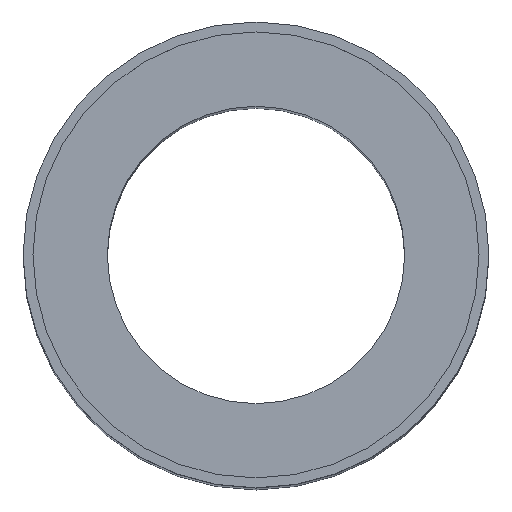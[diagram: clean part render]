
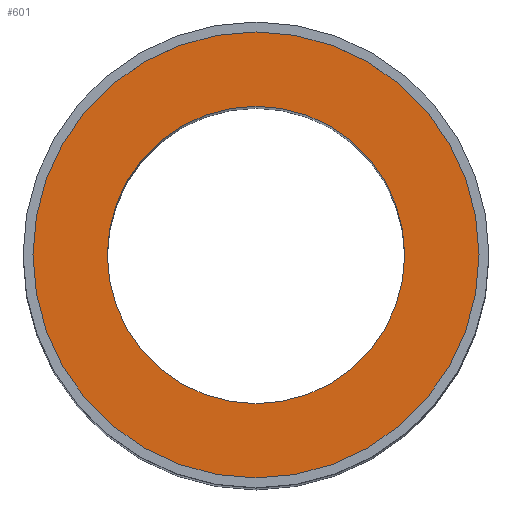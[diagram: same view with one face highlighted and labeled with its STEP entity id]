
A CAD part, top view. The second image highlights one B-rep face of the part: STEP entity #601.
In plain terms, the highlighted planar face has unit normal (0, 0, 1).
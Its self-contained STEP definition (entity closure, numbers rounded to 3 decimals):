
#135=CARTESIAN_POINT('',(-22.5,0.,122.0));
#136=VERTEX_POINT('',#135);
#152=CARTESIAN_POINT('',(22.5,0.,122.));
#153=VERTEX_POINT('',#152);
#160=CARTESIAN_POINT('',(0.0,0.0,122.));
#161=DIRECTION('',(0.0,0.0,-1.0));
#162=DIRECTION('',(-1.0,0.0,0.0));
#163=AXIS2_PLACEMENT_3D('',#160,#161,#162);
#164=CIRCLE('',#163,22.5);
#165=EDGE_CURVE('',#153,#136,#164,.T.);
#175=CARTESIAN_POINT('',(-15.0,0.,122.));
#176=VERTEX_POINT('',#175);
#185=CARTESIAN_POINT('',(15.0,0.,122.));
#186=VERTEX_POINT('',#185);
#187=CARTESIAN_POINT('',(0.0,0.0,122.));
#188=DIRECTION('',(0.0,0.0,-1.0));
#189=DIRECTION('',(-1.0,0.0,0.0));
#190=AXIS2_PLACEMENT_3D('',#187,#188,#189);
#191=CIRCLE('',#190,15.0);
#192=EDGE_CURVE('',#186,#176,#191,.T.);
#552=CARTESIAN_POINT('',(0.0,0.0,122.));
#553=DIRECTION('',(0.0,0.0,-1.0));
#554=DIRECTION('',(-1.0,0.0,0.0));
#555=AXIS2_PLACEMENT_3D('',#552,#553,#554);
#556=CIRCLE('',#555,15.0);
#557=EDGE_CURVE('',#176,#186,#556,.T.);
#582=CARTESIAN_POINT('',(0.0,0.0,122.));
#583=DIRECTION('',(0.0,0.0,-1.0));
#584=DIRECTION('',(-1.0,0.0,0.0));
#585=AXIS2_PLACEMENT_3D('',#582,#583,#584);
#586=PLANE('',#585);
#587=ORIENTED_EDGE('',*,*,#165,.F.);
#588=CARTESIAN_POINT('',(0.0,0.0,122.));
#589=DIRECTION('',(0.0,0.0,-1.0));
#590=DIRECTION('',(-1.0,0.0,0.0));
#591=AXIS2_PLACEMENT_3D('',#588,#589,#590);
#592=CIRCLE('',#591,22.5);
#593=EDGE_CURVE('',#136,#153,#592,.T.);
#594=ORIENTED_EDGE('',*,*,#593,.F.);
#595=EDGE_LOOP('',(#587,#594));
#596=FACE_OUTER_BOUND('',#595,.T.);
#597=ORIENTED_EDGE('',*,*,#192,.T.);
#598=ORIENTED_EDGE('',*,*,#557,.T.);
#599=EDGE_LOOP('',(#597,#598));
#600=FACE_BOUND('',#599,.T.);
#601=ADVANCED_FACE('',(#596,#600),#586,.F.);
